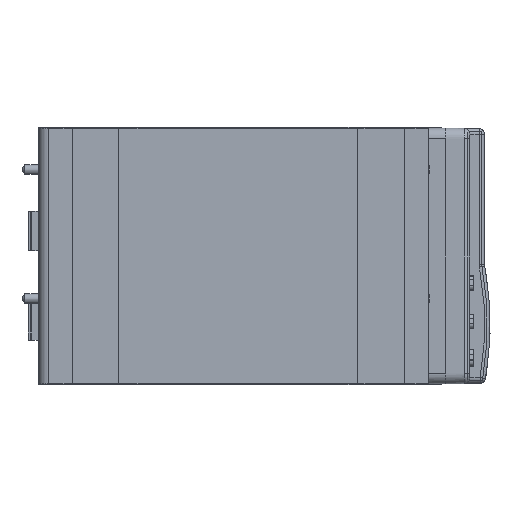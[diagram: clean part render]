
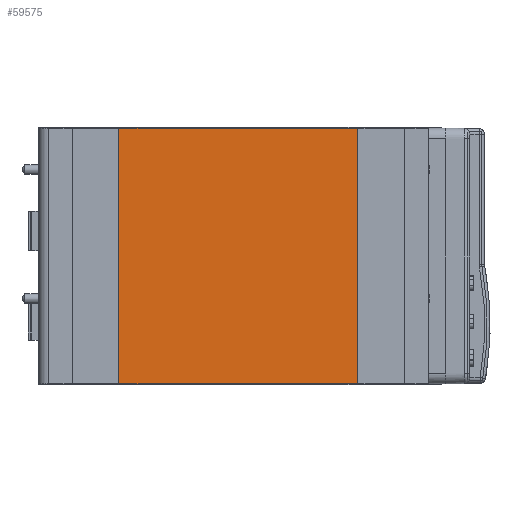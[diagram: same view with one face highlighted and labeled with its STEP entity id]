
A CAD part, front view. The second image highlights one B-rep face of the part: STEP entity #59575.
In plain terms, the highlighted planar face has unit normal (0, -1, 0).
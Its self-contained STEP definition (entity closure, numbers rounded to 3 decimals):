
#3228 = AXIS2_PLACEMENT_3D ( 'NONE', #36771, #36594, #36575 ) ;
#8028 = FACE_OUTER_BOUND ( 'NONE', #92782, .T. ) ;
#8178 = LINE ( 'NONE', #9852, #34255 ) ;
#8179 = LINE ( 'NONE', #9854, #33807 ) ;
#9852 = CARTESIAN_POINT ( 'NONE',  ( -80.101, -151.733, -65.298 ) ) ;
#9853 = DIRECTION ( 'NONE',  ( 0., 0., 1. ) ) ;
#9854 = CARTESIAN_POINT ( 'NONE',  ( 51.602, -151.733, -65.298 ) ) ;
#9855 = DIRECTION ( 'NONE',  ( 0., 0., 1. ) ) ;
#27394 = CARTESIAN_POINT ( 'NONE',  ( -80.101, -151.733, 75.702 ) ) ;
#27428 = CARTESIAN_POINT ( 'NONE',  ( 51.602, -151.733, -65.298 ) ) ;
#27429 = CARTESIAN_POINT ( 'NONE',  ( -80.101, -151.733, -65.298 ) ) ;
#33807 = VECTOR ( 'NONE', #9855, 1000. ) ;
#34255 = VECTOR ( 'NONE', #9853, 1000. ) ;
#36575 = DIRECTION ( 'NONE',  ( 0., 0., 1. ) ) ;
#36594 = DIRECTION ( 'NONE',  ( 0., 1., 0. ) ) ;
#36639 = PLANE ( 'NONE',  #3228 ) ;
#36771 = CARTESIAN_POINT ( 'NONE',  ( 416.762, -151.733, 75.702 ) ) ;
#45370 = VECTOR ( 'NONE', #54020, 1000. ) ;
#45458 = VECTOR ( 'NONE', #54123, 1000. ) ;
#49694 = LINE ( 'NONE', #54019, #45370 ) ;
#49715 = LINE ( 'NONE', #54122, #45458 ) ;
#54019 = CARTESIAN_POINT ( 'NONE',  ( 416.762, -151.733, 75.702 ) ) ;
#54020 = DIRECTION ( 'NONE',  ( -1., 0., 0. ) ) ;
#54122 = CARTESIAN_POINT ( 'NONE',  ( 416.762, -151.733, -65.298 ) ) ;
#54123 = DIRECTION ( 'NONE',  ( -1., 0., 0. ) ) ;
#59575 = ADVANCED_FACE ( 'NONE', ( #8028 ), #36639, .F. ) ;
#60031 = EDGE_CURVE ( 'NONE', #73754, #73605, #8178, .T. ) ;
#60032 = EDGE_CURVE ( 'NONE', #73752, #83815, #8179, .T. ) ;
#61297 = ORIENTED_EDGE ( 'NONE', *, *, #60031, .F. ) ;
#61300 = ORIENTED_EDGE ( 'NONE', *, *, #60032, .T. ) ;
#61301 = ORIENTED_EDGE ( 'NONE', *, *, #77374, .F. ) ;
#61303 = ORIENTED_EDGE ( 'NONE', *, *, #77342, .T. ) ;
#73605 = VERTEX_POINT ( 'NONE', #27394 ) ;
#73752 = VERTEX_POINT ( 'NONE', #27428 ) ;
#73754 = VERTEX_POINT ( 'NONE', #27429 ) ;
#77342 = EDGE_CURVE ( 'NONE', #83815, #73605, #49694, .T. ) ;
#77374 = EDGE_CURVE ( 'NONE', #73752, #73754, #49715, .T. ) ;
#83815 = VERTEX_POINT ( 'NONE', #87798 ) ;
#87798 = CARTESIAN_POINT ( 'NONE',  ( 51.602, -151.733, 75.702 ) ) ;
#92782 = EDGE_LOOP ( 'NONE', ( #61297, #61301, #61300, #61303 ) ) ;
